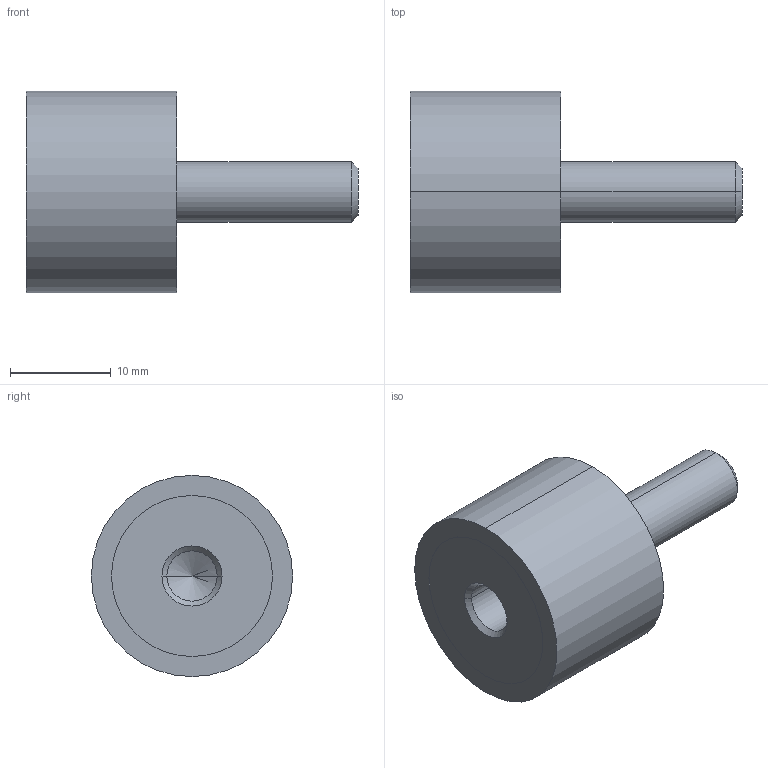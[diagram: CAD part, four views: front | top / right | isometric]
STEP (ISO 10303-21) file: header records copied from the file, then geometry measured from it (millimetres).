
FILE_DESCRIPTION (( 'STEP AP214' ), '1' );
FILE_NAME ('351-20-15-M6-ES-40.step', '2025-07-23T09:57:50', ( '' ), ( '' ), 'SwSTEP 2.0', 'SolidWorks 2022', '' );
FILE_SCHEMA (( 'AUTOMOTIVE_DESIGN' ));
Length unit declared in the file: millimetre
Products named in the file (1): 351-20-15-M6-ES-40
Bounding box: 33 x 20 x 20 mm (x, y, z)
Volume: 5065.6 mm3; surface area: 2012 mm2
Topology: 1 solids, 1 shells, 24 faces, 48 edges, 29 vertices
Faces by surface type: cylinder 12, cone 6, plane 6
Entity records: 740 total; most frequent: DIRECTION 124, CARTESIAN_POINT 100, ORIENTED_EDGE 92, AXIS2_PLACEMENT_3D 53, EDGE_CURVE 46, VERTEX_POINT 29, EDGE_LOOP 29, CIRCLE 28
